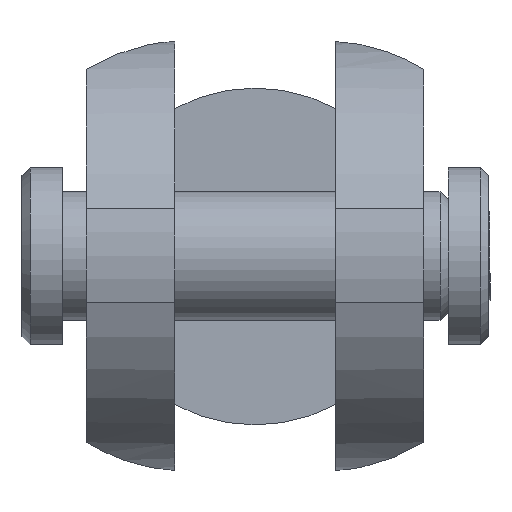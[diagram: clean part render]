
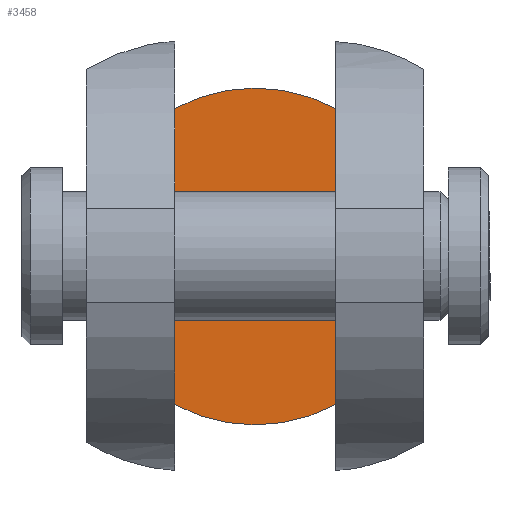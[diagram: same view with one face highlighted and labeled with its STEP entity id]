
A CAD part, top view. The second image highlights one B-rep face of the part: STEP entity #3458.
In plain terms, the highlighted planar face has unit normal (0, 0, 1).
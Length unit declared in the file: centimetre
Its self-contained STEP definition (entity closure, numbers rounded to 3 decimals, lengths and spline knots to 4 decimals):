
#151=PLANE('',#3647);
#502=LINE('',#5613,#850);
#503=LINE('',#5615,#851);
#850=VECTOR('',#4341,1.8411);
#851=VECTOR('',#4344,1.8411);
#1137=FACE_OUTER_BOUND('',#1343,.T.);
#1343=EDGE_LOOP('',(#3011,#3012,#3013,#3014));
#1405=CIRCLE('',#3502,1.0476);
#1406=CIRCLE('',#3503,1.0476);
#1452=VERTEX_POINT('',#4496);
#1453=VERTEX_POINT('',#4500);
#1458=VERTEX_POINT('',#4528);
#1459=VERTEX_POINT('',#4532);
#1762=EDGE_CURVE('',#1452,#1453,#1405,.T.);
#1768=EDGE_CURVE('',#1458,#1459,#1406,.T.);
#2163=EDGE_CURVE('',#1459,#1452,#502,.T.);
#2164=EDGE_CURVE('',#1458,#1453,#503,.T.);
#3011=ORIENTED_EDGE('',*,*,#1768,.F.);
#3012=ORIENTED_EDGE('',*,*,#2164,.T.);
#3013=ORIENTED_EDGE('',*,*,#1762,.F.);
#3014=ORIENTED_EDGE('',*,*,#2163,.F.);
#3458=ADVANCED_FACE('',(#1137),#151,.F.);
#3502=AXIS2_PLACEMENT_3D('',#4501,#3717,#3718);
#3503=AXIS2_PLACEMENT_3D('',#4533,#3719,#3720);
#3647=AXIS2_PLACEMENT_3D('',#5614,#4342,#4343);
#3717=DIRECTION('center_axis',(0.,0.,
-1.));
#3718=DIRECTION('ref_axis',(0.,-1.,0.));
#3719=DIRECTION('center_axis',(0.,0.,
-1.));
#3720=DIRECTION('ref_axis',(0.,-1.,0.));
#4341=DIRECTION('',(0.,1.,0.));
#4342=DIRECTION('center_axis',(0.,0.,
-1.));
#4343=DIRECTION('ref_axis',(-1.,0.,0.));
#4344=DIRECTION('',(0.,1.,0.));
#4496=CARTESIAN_POINT('',(-0.5,0.9206,-1.85));
#4500=CARTESIAN_POINT('',(0.5,0.9206,-1.85));
#4501=CARTESIAN_POINT('Origin',(0.,0.,
-1.85));
#4528=CARTESIAN_POINT('',(0.5,-0.9206,-1.85));
#4532=CARTESIAN_POINT('',(-0.5,-0.9206,-1.85));
#4533=CARTESIAN_POINT('Origin',(0.,0.,
-1.85));
#5613=CARTESIAN_POINT('',(-0.5,0.,-1.85));
#5614=CARTESIAN_POINT('Origin',(0.5,0.,-1.85));
#5615=CARTESIAN_POINT('',(0.5,0.,-1.85));
